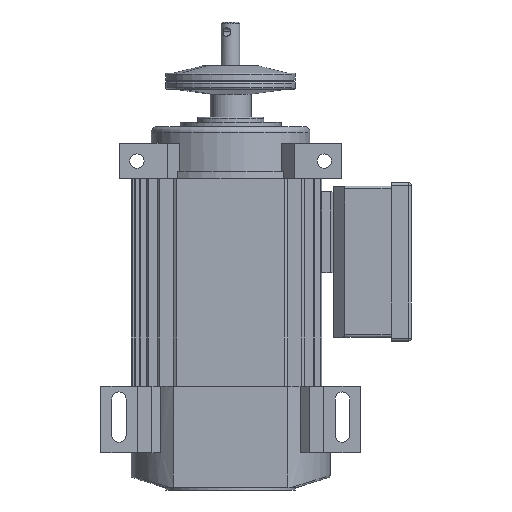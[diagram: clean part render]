
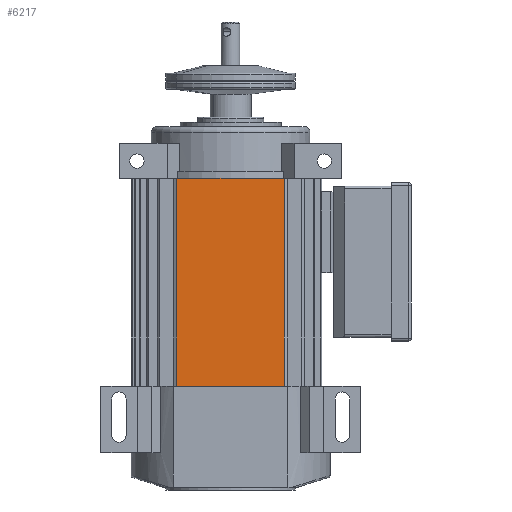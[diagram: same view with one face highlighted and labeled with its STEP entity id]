
A CAD part, front view. The second image highlights one B-rep face of the part: STEP entity #6217.
In plain terms, the highlighted planar face has unit normal (0, -1, 0).
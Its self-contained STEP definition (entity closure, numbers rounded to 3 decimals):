
#634 = AXIS2_PLACEMENT_3D ( 'NONE', #1924, #1926, #1927 ) ;
#827 = EDGE_CURVE ( 'NONE', #3311, #3310, #3743, .T. ) ;
#859 = EDGE_CURVE ( 'NONE', #3287, #3288, #3788, .T. ) ;
#932 = EDGE_CURVE ( 'NONE', #3288, #3310, #2409, .T. ) ;
#933 = EDGE_CURVE ( 'NONE', #3311, #3287, #2411, .T. ) ;
#1922 = PLANE ( 'NONE',  #634 ) ;
#1924 = CARTESIAN_POINT ( 'NONE',  ( -76., -58., 0. ) ) ;
#1926 = DIRECTION ( 'NONE',  ( 0., -1., 0. ) ) ;
#1927 = DIRECTION ( 'NONE',  ( 0., 0., -1. ) ) ;
#2409 = LINE ( 'NONE', #3185, #2412 ) ;
#2411 = LINE ( 'NONE', #3187, #2414 ) ;
#2412 = VECTOR ( 'NONE', #3186, 1000. ) ;
#2414 = VECTOR ( 'NONE', #3188, 1000. ) ;
#2726 = DIRECTION ( 'NONE',  ( 1., 0., 0. ) ) ;
#2730 = CARTESIAN_POINT ( 'NONE',  ( -76., -58., 144. ) ) ;
#2805 = DIRECTION ( 'NONE',  ( 1., 0., 0. ) ) ;
#2810 = CARTESIAN_POINT ( 'NONE',  ( -76., -58., 0. ) ) ;
#3185 = CARTESIAN_POINT ( 'NONE',  ( 37.376, -58., -24. ) ) ;
#3186 = DIRECTION ( 'NONE',  ( 0., 0., 1. ) ) ;
#3187 = CARTESIAN_POINT ( 'NONE',  ( -37.376, -58., -24. ) ) ;
#3188 = DIRECTION ( 'NONE',  ( 0., 0., -1. ) ) ;
#3287 = VERTEX_POINT ( 'NONE', #8121 ) ;
#3288 = VERTEX_POINT ( 'NONE', #8122 ) ;
#3310 = VERTEX_POINT ( 'NONE', #8144 ) ;
#3311 = VERTEX_POINT ( 'NONE', #8145 ) ;
#3743 = LINE ( 'NONE', #2730, #3745 ) ;
#3745 = VECTOR ( 'NONE', #2726, 1000. ) ;
#3788 = LINE ( 'NONE', #2810, #3793 ) ;
#3793 = VECTOR ( 'NONE', #2805, 1000. ) ;
#5792 = EDGE_LOOP ( 'NONE', ( #6022, #6007, #5992, #10260 ) ) ;
#5992 = ORIENTED_EDGE ( 'NONE', *, *, #827, .F. ) ;
#6007 = ORIENTED_EDGE ( 'NONE', *, *, #932, .T. ) ;
#6022 = ORIENTED_EDGE ( 'NONE', *, *, #859, .T. ) ;
#6217 = ADVANCED_FACE ( 'NONE', ( #9069 ), #1922, .T. ) ;
#8121 = CARTESIAN_POINT ( 'NONE',  ( -37.376, -58., 0. ) ) ;
#8122 = CARTESIAN_POINT ( 'NONE',  ( 37.376, -58., 0. ) ) ;
#8144 = CARTESIAN_POINT ( 'NONE',  ( 37.376, -58., 144. ) ) ;
#8145 = CARTESIAN_POINT ( 'NONE',  ( -37.376, -58., 144. ) ) ;
#9069 = FACE_OUTER_BOUND ( 'NONE', #5792, .T. ) ;
#10260 = ORIENTED_EDGE ( 'NONE', *, *, #933, .T. ) ;
